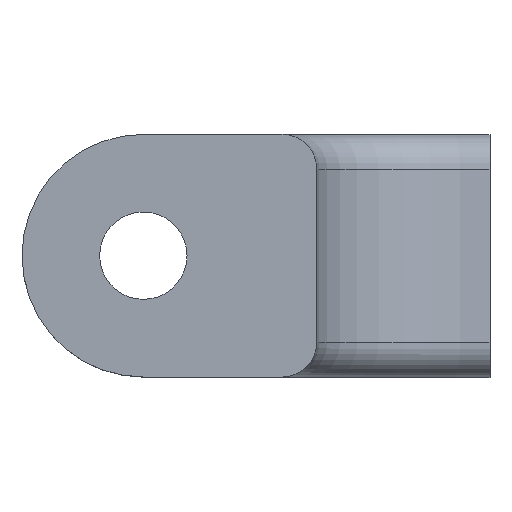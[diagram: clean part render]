
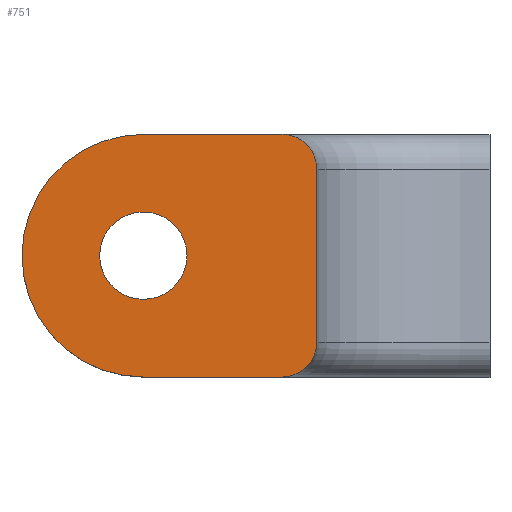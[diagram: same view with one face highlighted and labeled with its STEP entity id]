
A CAD part, top view. The second image highlights one B-rep face of the part: STEP entity #751.
In plain terms, the highlighted planar face has unit normal (0, 0, 1).
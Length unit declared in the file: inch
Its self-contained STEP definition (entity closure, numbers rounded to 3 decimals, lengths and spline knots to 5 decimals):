
#15=FACE_BOUND('',#204,.T.);
#19=PLANE('',#830);
#40=LINE('',#1372,#70);
#41=LINE('',#1374,#71);
#42=LINE('',#1377,#72);
#70=VECTOR('',#981,0.3937);
#71=VECTOR('',#982,0.3937);
#72=VECTOR('',#985,0.3937);
#158=FACE_OUTER_BOUND('',#203,.T.);
#203=EDGE_LOOP('',(#571,#572,#573,#574,#575,#576));
#204=EDGE_LOOP('',(#577));
#254=CIRCLE('',#827,0.063);
#255=CIRCLE('',#829,0.175);
#256=CIRCLE('',#831,0.05);
#257=CIRCLE('',#832,0.05);
#323=VERTEX_POINT('',#1359);
#324=VERTEX_POINT('',#1363);
#325=VERTEX_POINT('',#1365);
#326=VERTEX_POINT('',#1369);
#327=VERTEX_POINT('',#1370);
#328=VERTEX_POINT('',#1373);
#329=VERTEX_POINT('',#1375);
#413=EDGE_CURVE('',#323,#323,#254,.T.);
#415=EDGE_CURVE('',#325,#324,#255,.T.);
#417=EDGE_CURVE('',#326,#327,#256,.T.);
#418=EDGE_CURVE('',#327,#325,#40,.T.);
#419=EDGE_CURVE('',#328,#324,#41,.T.);
#420=EDGE_CURVE('',#328,#329,#257,.T.);
#421=EDGE_CURVE('',#326,#329,#42,.T.);
#571=ORIENTED_EDGE('',*,*,#417,.T.);
#572=ORIENTED_EDGE('',*,*,#418,.T.);
#573=ORIENTED_EDGE('',*,*,#415,.T.);
#574=ORIENTED_EDGE('',*,*,#419,.F.);
#575=ORIENTED_EDGE('',*,*,#420,.T.);
#576=ORIENTED_EDGE('',*,*,#421,.F.);
#577=ORIENTED_EDGE('',*,*,#413,.T.);
#751=ADVANCED_FACE('',(#158,#15),#19,.T.);
#827=AXIS2_PLACEMENT_3D('',#1361,#969,#970);
#829=AXIS2_PLACEMENT_3D('',#1366,#974,#975);
#830=AXIS2_PLACEMENT_3D('',#1368,#977,#978);
#831=AXIS2_PLACEMENT_3D('',#1371,#979,#980);
#832=AXIS2_PLACEMENT_3D('',#1376,#983,#984);
#969=DIRECTION('center_axis',(0.,0.,
-1.));
#970=DIRECTION('ref_axis',(0.,-1.,0.));
#974=DIRECTION('center_axis',(0.,0.,1.));
#975=DIRECTION('ref_axis',(0.,-1.,0.));
#977=DIRECTION('center_axis',(0.,0.,1.));
#978=DIRECTION('ref_axis',(0.,-1.,0.));
#979=DIRECTION('center_axis',(0.,0.,1.));
#980=DIRECTION('ref_axis',(-1.,0.,0.));
#981=DIRECTION('',(-1.,0.,0.));
#982=DIRECTION('',(-1.,0.,0.));
#983=DIRECTION('center_axis',(0.,0.,1.));
#984=DIRECTION('ref_axis',(-1.,0.,0.));
#985=DIRECTION('',(0.,-1.,0.));
#1359=CARTESIAN_POINT('',(9.53,5.313,29.965));
#1361=CARTESIAN_POINT('Origin',(9.53,5.25,29.965));
#1363=CARTESIAN_POINT('',(9.53,5.075,29.965));
#1365=CARTESIAN_POINT('',(9.53,5.425,29.965));
#1366=CARTESIAN_POINT('Origin',(9.53,5.25,29.965));
#1368=CARTESIAN_POINT('Origin',(9.5675,5.25,29.965));
#1369=CARTESIAN_POINT('',(9.78,5.375,29.965));
#1370=CARTESIAN_POINT('',(9.73,5.425,29.965));
#1371=CARTESIAN_POINT('Origin',(9.73,5.375,29.965));
#1372=CARTESIAN_POINT('',(9.78,5.425,29.965));
#1373=CARTESIAN_POINT('',(9.73,5.075,29.965));
#1374=CARTESIAN_POINT('',(9.78,5.075,29.965));
#1375=CARTESIAN_POINT('',(9.78,5.125,29.965));
#1376=CARTESIAN_POINT('Origin',(9.73,5.125,29.965));
#1377=CARTESIAN_POINT('',(9.78,5.425,29.965));
